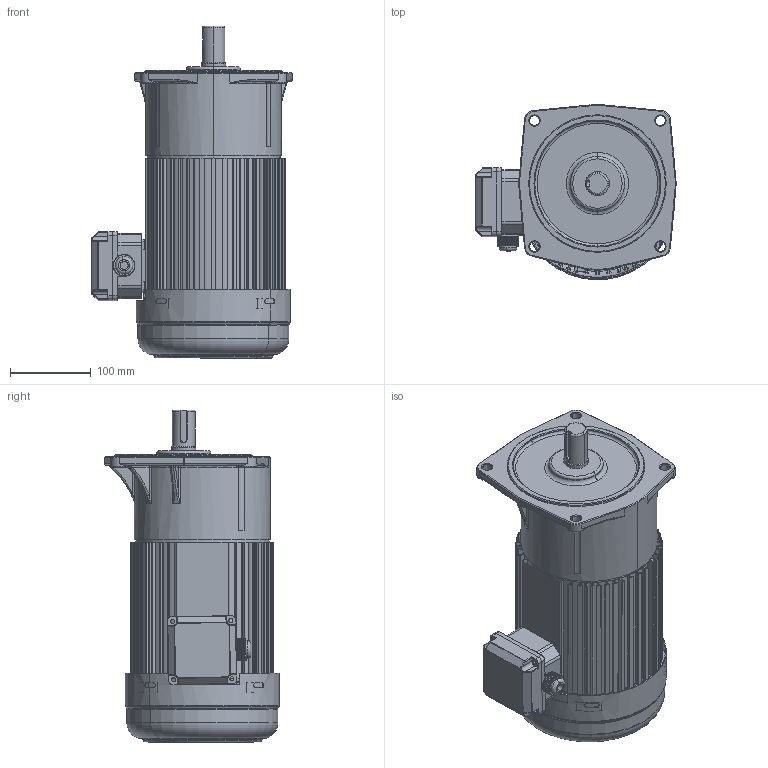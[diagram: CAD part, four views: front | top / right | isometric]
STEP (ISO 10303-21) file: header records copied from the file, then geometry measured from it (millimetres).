
FILE_DESCRIPTION (( 'STEP AP203' ), '1' );
FILE_NAME ('1500W饜3#湍价陬蕾宒.STEP', '2020-04-16T08:52:28', ( 'china' ), ( 'china' ), 'SwSTEP 2.0', 'SolidWorks 2019', '' );
FILE_SCHEMA (( 'CONFIG_CONTROL_DESIGN' ));
Length unit declared in the file: millimetre
Products named in the file (8): 1500W棠憤迖殤; 3#蕾宒眊极; 1500W儂褲; 1500W饜3#湍价陬蕾宒; 瑞欶; 蜊輛綴諉盄碟釱3; 諉芛; 湍价陬諉盄碟裔
Assembly tree (7 placements, depth 2):
  1500W饜3#湍价陬蕾宒
    1500W儂褲
    瑞欶
    蜊輛綴諉盄碟釱3
    諉芛
    湍价陬諉盄碟裔
    1500W棠憤迖殤
    3#蕾宒眊极
Bounding box: 247.98 x 216.4 x 410.45 mm (x, y, z)
Volume: 3645017.8 mm3; surface area: 766497.1 mm2
Topology: 7 solids, 7 shells, 2035 faces, 5684 edges, 3684 vertices
Faces by surface type: plane 1047, cylinder 749, bspline 84, torus 78, cone 55, sphere 22
Entity records: 73356 total; most frequent: CARTESIAN_POINT 19096, ORIENTED_EDGE 11340, DIRECTION 10985, EDGE_CURVE 5670, VERTEX_POINT 3684, AXIS2_PLACEMENT_3D 3663, LINE 3659, VECTOR 3659
